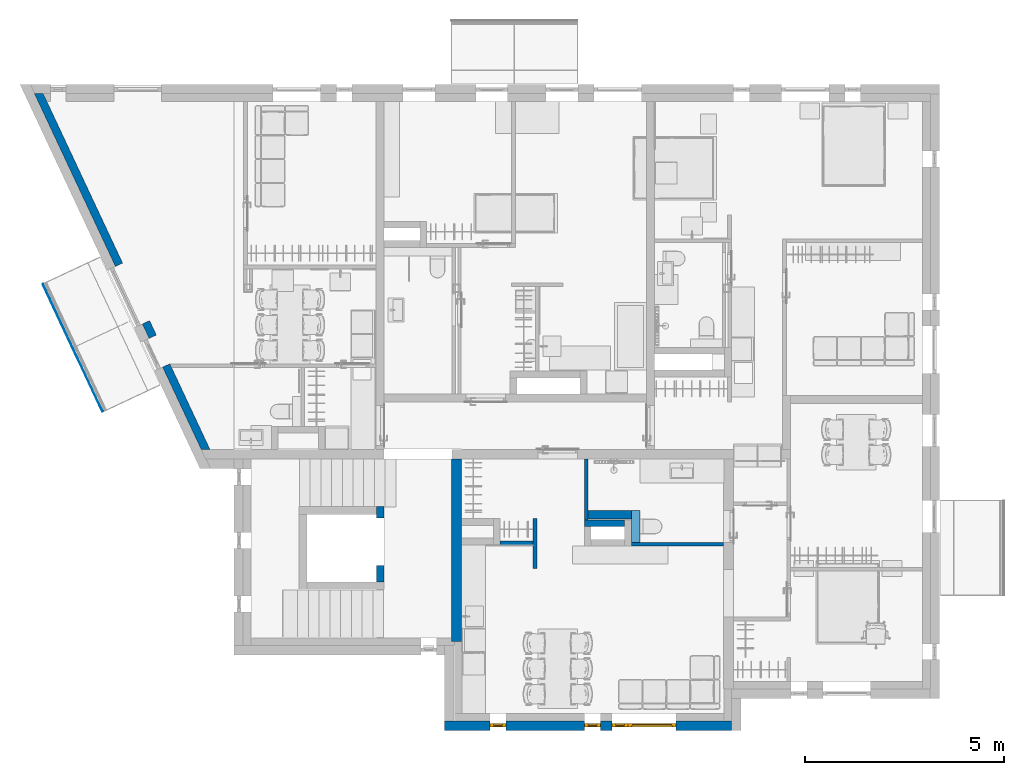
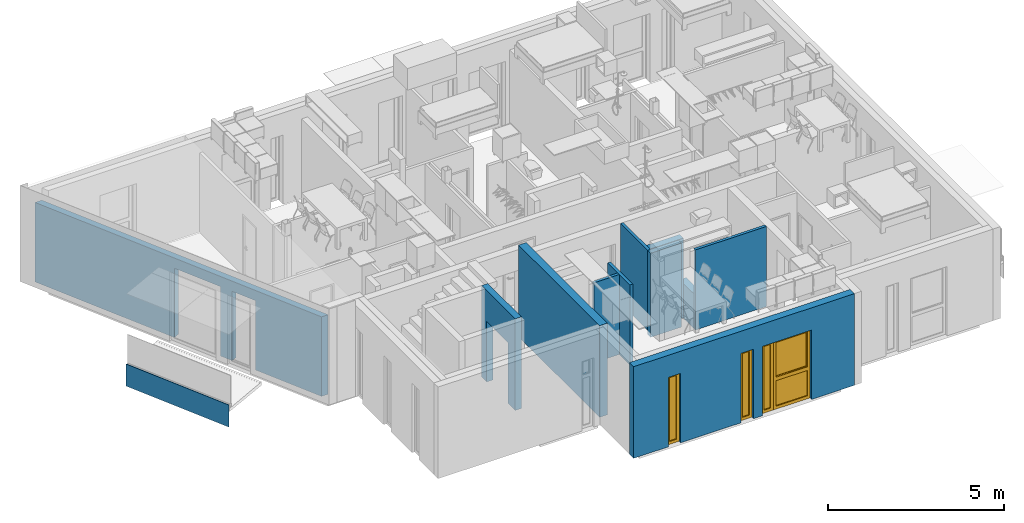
# One storey, part 4 of 68: 12 walls, 4 windows, 7 openings.
"""IFC2X3 building model written with IfcOpenShell, lengths in millimetres."""

import ifcopenshell
import ifcopenshell.guid

model = None  # the IFC model being written
_history = None  # IfcOwnerHistory: only IFC2X3 demands one
_inside = {}  # id of a spatial element -> (the spatial element, [elements in it])
_under = {}  # id of a project, library or spatial element -> (it, [spatial elements below it])
_declared = {}  # id of a project -> (the project, [libraries it declares])
_typed = {}  # id of a type object -> (the type object, [elements of that type])
_made_of = {}  # id of a material, layer set ... -> (it, [elements and type objects made of it])


def new_model(schema):
    """Start an empty IFC model of exactly this schema.

    Asked for "IFC4X3", IfcOpenShell would pick the latest addendum, in which some entities
    have other attributes; the version numbers below select the first issue.
    IFC2X3 requires an IfcOwnerHistory on every rooted entity: one is made here for all.
    """
    global model, _history
    if schema == "IFC4X3":
        model = ifcopenshell.file(schema_version=(4, 3, 0, 0))
    else:
        model = ifcopenshell.file(schema=schema)
    _inside.clear()
    _under.clear()
    _declared.clear()
    _typed.clear()
    _made_of.clear()
    _history = None
    if model.schema == "IFC2X3":
        org = make("IfcOrganization", Name="unknown")
        user = make(
            "IfcPersonAndOrganization",
            ThePerson=make("IfcPerson", FamilyName="unknown"),
            TheOrganization=org,
        )
        app = make(
            "IfcApplication",
            ApplicationDeveloper=org,
            Version="unknown",
            ApplicationFullName="unknown",
            ApplicationIdentifier="unknown",
        )
        _history = make(
            "IfcOwnerHistory",
            OwningUser=user,
            OwningApplication=app,
            ChangeAction="ADDED",
            CreationDate=0,
        )
    return model


def make(cls, **values):
    """One entity of the class cls with the attributes given. An attribute that is None is left unset."""
    return model.create_entity(
        cls, **{name: value for name, value in values.items() if value is not None}
    )


def entity(cls, *values):
    """Any entity or typed value of the class cls, its attributes in the order of the schema. None: left unset."""
    e = model.create_entity(cls)
    for i, value in enumerate(values):
        if value is not None:
            e[i] = value
    return e


def rooted(cls, **values):
    """An entity with a GlobalId (a new one), such as an element, a storey or a relation."""
    return make(cls, GlobalId=ifcopenshell.guid.new(), OwnerHistory=_history, **values)


def si_unit(unit_type, name, prefix=None):
    """IfcSIUnit, for example si_unit("LENGTHUNIT", "METRE", prefix="MILLI")."""
    return make("IfcSIUnit", UnitType=unit_type, Prefix=prefix, Name=name)


def converted_unit(unit_type, name, factor, base, dimensions=None, offset=None):
    """IfcConversionBasedUnit, such as the inch: factor (a typed value) times the base unit."""
    return make(
        "IfcConversionBasedUnit"
        if offset is None
        else "IfcConversionBasedUnitWithOffset",
        ConversionOffset=offset,
        Dimensions=None
        if dimensions is None
        else entity("IfcDimensionalExponents", *dimensions),
        UnitType=unit_type,
        Name=name,
        ConversionFactor=make(
            "IfcMeasureWithUnit", ValueComponent=factor, UnitComponent=base
        ),
    )


def assignment(units):
    """IfcUnitAssignment: the units of a project."""
    return None if units is None else make("IfcUnitAssignment", Units=units)


def point(xyz):
    """IfcCartesianPoint."""
    return None if xyz is None else make("IfcCartesianPoint", Coordinates=xyz)


def direction(xyz):
    """IfcDirection."""
    return None if xyz is None else make("IfcDirection", DirectionRatios=xyz)


def frame(location, z_axis=None, x_axis=None):
    """IfcAxis2Placement3D, a coordinate frame: its origin and axes. An axis left out is left unset."""
    return make(
        "IfcAxis2Placement3D",
        Location=point(location),
        Axis=direction(z_axis),
        RefDirection=direction(x_axis),
    )


def frame_2d(location, x_axis=None):
    """IfcAxis2Placement2D, a coordinate frame in the plane: its origin and x axis."""
    return make(
        "IfcAxis2Placement2D", Location=point(location), RefDirection=direction(x_axis)
    )


def origin():
    """The frame at (0, 0, 0) with its axes left unset."""
    return frame((0.0, 0.0, 0.0))


def origin_2d_with_axis():
    """The frame at (0, 0) in the plane with the x axis (1, 0) written out."""
    return frame_2d((0.0, 0.0), x_axis=(1.0, 0.0))


def place(relative_to, where):
    """IfcLocalPlacement: puts the frame where relative to a parent placement (None: the world)."""
    return make(
        "IfcLocalPlacement", PlacementRelTo=relative_to, RelativePlacement=where
    )


def context(
    kind, dimensions, precision=None, world=None, true_north=None, identifier=None
):
    """IfcGeometricRepresentationContext, for example the 3D "Model" context."""
    return make(
        "IfcGeometricRepresentationContext",
        ContextIdentifier=identifier,
        ContextType=kind,
        CoordinateSpaceDimension=dimensions,
        Precision=precision,
        WorldCoordinateSystem=world,
        TrueNorth=true_north,
    )


def subcontext(parent, identifier, kind, view, scale=None):
    """IfcGeometricRepresentationSubContext, for example "Body" below "Model"."""
    return make(
        "IfcGeometricRepresentationSubContext",
        ContextIdentifier=identifier,
        ContextType=kind,
        ParentContext=parent,
        TargetScale=scale,
        TargetView=view,
    )


def project(units=None, contexts=None):
    """IfcProject with its units and contexts."""
    return rooted(
        "IfcProject",
        Name="project",
        RepresentationContexts=contexts,
        UnitsInContext=assignment(units),
    )


def spatial(cls, under=None, at=None, **own):
    """A site, building, storey or space (cls), placed at a placement, below another one or the project."""
    s = rooted(cls, ObjectPlacement=at, **own)
    if under is not None:
        _under.setdefault(under.id(), (under, []))[1].append(s)
    return s


def polyline(points):
    """IfcPolyline through the points."""
    return make("IfcPolyline", Points=[point(p) for p in points])


def profile(cls, at=None, kind="AREA", **sizes):
    """A parametric profile (cls). Its sizes go by their IFC names, for example OverallWidth=200.0."""
    return make(cls, ProfileType=kind, Position=at, **sizes)


def rectangle(**sizes):
    """IfcRectangleProfileDef."""
    return profile("IfcRectangleProfileDef", **sizes)


def outline(outer, holes=None, kind="AREA"):
    """IfcArbitraryClosedProfileDef: a profile drawn as a closed curve; with holes, ...WithVoids."""
    if holes is None:
        return make("IfcArbitraryClosedProfileDef", ProfileType=kind, OuterCurve=outer)
    return make(
        "IfcArbitraryProfileDefWithVoids",
        ProfileType=kind,
        OuterCurve=outer,
        InnerCurves=holes,
    )


def extrude(swept, where, along, depth):
    """IfcExtrudedAreaSolid: the profile swept, set in the frame where, extruded along a direction by depth."""
    return make(
        "IfcExtrudedAreaSolid",
        SweptArea=swept,
        Position=where,
        ExtrudedDirection=direction(along),
        Depth=depth,
    )


def faces_of(points, faces, orient=None, outer=None):
    """IfcFace entities. A face is a list of loops; a loop is a list of indices into points, from 0.

    orient and outer hold one flag for each loop. By default every Orientation is true, the
    first loop of a face is its IfcFaceOuterBound and the others are IfcFaceBound.
    """
    made = []
    for i, loops in enumerate(faces):
        bounds = []
        for j, loop in enumerate(loops):
            is_outer = j == 0 if outer is None else outer[i][j]
            bounds.append(
                make(
                    "IfcFaceOuterBound" if is_outer else "IfcFaceBound",
                    Bound=make("IfcPolyLoop", Polygon=[points[k] for k in loop]),
                    Orientation=True if orient is None else orient[i][j],
                )
            )
        made.append(make("IfcFace", Bounds=bounds))
    return made


def faceted_brep(points, faces, orient=None, outer=None, voids=None):
    """IfcFacetedBrep: a solid bounded by flat faces; with voids (closed shells), ...WithVoids."""
    shared = [point(p) for p in points]
    hull = make("IfcClosedShell", CfsFaces=faces_of(shared, faces, orient, outer))
    if voids is None:
        return make("IfcFacetedBrep", Outer=hull)
    return make(
        "IfcFacetedBrepWithVoids",
        Outer=hull,
        Voids=[
            make(cls, CfsFaces=faces_of(shared, fs, o, b)) for cls, fs, o, b in voids
        ],
    )


def shape(context_of_items, identifier, shape_type, items):
    """IfcShapeRepresentation: the items that make up one representation, for example the "Body"."""
    return make(
        "IfcShapeRepresentation",
        ContextOfItems=context_of_items,
        RepresentationIdentifier=identifier,
        RepresentationType=shape_type,
        Items=items,
    )


def source(mapping_origin, context_of_items, identifier, shape_type, items):
    """IfcRepresentationMap: a shape defined once, which mapped items show again and again."""
    return make(
        "IfcRepresentationMap",
        MappingOrigin=mapping_origin,
        MappedRepresentation=shape(context_of_items, identifier, shape_type, items),
    )


def transform(
    local_origin,
    x_axis=None,
    y_axis=None,
    z_axis=None,
    scale=None,
    scale2=None,
    scale3=None,
    uniform=True,
):
    """IfcCartesianTransformationOperator3D, or its non-uniform kind. x_axis, y_axis, z_axis: its Axis1, 2, 3."""
    if uniform:
        return make(
            "IfcCartesianTransformationOperator3D",
            Axis1=direction(x_axis),
            Axis2=direction(y_axis),
            LocalOrigin=point(local_origin),
            Scale=scale,
            Axis3=direction(z_axis),
        )
    return make(
        "IfcCartesianTransformationOperator3DnonUniform",
        Axis1=direction(x_axis),
        Axis2=direction(y_axis),
        LocalOrigin=point(local_origin),
        Scale=scale,
        Axis3=direction(z_axis),
        Scale2=scale2,
        Scale3=scale3,
    )


def mapped(mapping_source, mapping_target):
    """IfcMappedItem: shows the shape of a source again, moved by a transform."""
    return make(
        "IfcMappedItem", MappingSource=mapping_source, MappingTarget=mapping_target
    )


def material(Name=None, Category=None):
    """IfcMaterial."""
    return make("IfcMaterial", Name=Name, Category=Category)


def material_list(materials):
    """IfcMaterialList."""
    return make("IfcMaterialList", Materials=materials)


def layer(
    of_material, thickness, ventilated=None, Name=None, Category=None, Priority=None
):
    """IfcMaterialLayer: one layer of a wall or slab, of a material (None: an air gap)."""
    return make(
        "IfcMaterialLayer",
        Material=of_material,
        LayerThickness=thickness,
        IsVentilated=ventilated,
        Name=Name,
        Category=Category,
        Priority=Priority,
    )


def layer_set(layers, Name=None):
    """IfcMaterialLayerSet."""
    return make("IfcMaterialLayerSet", MaterialLayers=layers, LayerSetName=Name)


def layer_usage(for_layer_set, set_direction, sense, offset, extent=None):
    """IfcMaterialLayerSetUsage: how a layer set lies in its element."""
    return make(
        "IfcMaterialLayerSetUsage",
        ForLayerSet=for_layer_set,
        LayerSetDirection=set_direction,
        DirectionSense=sense,
        OffsetFromReferenceLine=offset,
        ReferenceExtent=extent,
    )


def made_of(thing, what):
    """Note that an element or type object is made of a material, layer set ...; save() writes the relation."""
    if what is not None:
        _made_of.setdefault(what.id(), (what, []))[1].append(thing)
    return thing


def type_object(cls, material=None, **own):
    """A type object (cls), such as IfcWallType, which elements share."""
    return made_of(rooted(cls, **own), material)


def type_shapes(of_type, sources):
    """Give a type object the sources (RepresentationMaps) that its elements show as mapped items."""
    of_type.RepresentationMaps = sources


def element(
    cls,
    number,
    at=None,
    inside=None,
    cuts=None,
    type_object=None,
    material=None,
    context=None,
    identifier="Body",
    shape_type=None,
    held_by="IfcProductDefinitionShape",
    body=None,
    shapes=None,
    **own,
):
    """One element of the class cls, such as IfcWall. Its Tag is "e" and its number.

    at: its placement. inside: the storey or other place that contains it. cuts: it is an
    opening in that element (IfcRelVoidsElement). A single representation is given by context,
    identifier, shape_type and body (its items); several are given by shapes. held_by: the class
    of the entity that holds the representations. save() writes the other relations.
    """
    e = rooted(cls, Tag="e%d" % number, ObjectPlacement=at, **own)
    if body is not None:
        shapes = [shape(context, identifier, shape_type, body)]
    if shapes is not None:
        e.Representation = make(held_by, Representations=shapes)
    if inside is not None:
        _inside.setdefault(inside.id(), (inside, []))[1].append(e)
    if cuts is not None:
        rooted(
            "IfcRelVoidsElement", RelatingBuildingElement=cuts, RelatedOpeningElement=e
        )
    if type_object is not None:
        _typed.setdefault(type_object.id(), (type_object, []))[1].append(e)
    return made_of(e, material)


def fill(opening, filler):
    """IfcRelFillsElement: the door or window that sits in an opening."""
    return rooted(
        "IfcRelFillsElement",
        RelatingOpeningElement=opening,
        RelatedBuildingElement=filler,
    )


def aggregate(whole, parts):
    """IfcRelAggregates: a whole, such as a stair, and the parts it consists of."""
    return rooted("IfcRelAggregates", RelatingObject=whole, RelatedObjects=parts)


def save(model, path):
    """Write the relations noted so far, then the file.

    IfcRelAggregates (storeys below a building ...), IfcRelContainedInSpatialStructure (elements
    in a storey), IfcRelDefinesByType, IfcRelAssociatesMaterial and IfcRelDeclares: one each for
    every whole, place, type object, material and project.
    """
    for whole, parts in _under.values():
        aggregate(whole, parts)
    for where, things in _inside.values():
        rooted(
            "IfcRelContainedInSpatialStructure",
            RelatedElements=things,
            RelatingStructure=where,
        )
    for kind, things in _typed.values():
        rooted("IfcRelDefinesByType", RelatedObjects=things, RelatingType=kind)
    for what, things in _made_of.values():
        rooted("IfcRelAssociatesMaterial", RelatedObjects=things, RelatingMaterial=what)
    for by, libraries in _declared.values():
        rooted("IfcRelDeclares", RelatingContext=by, RelatedDefinitions=libraries)
    model.write(path)


model = new_model("IFC2X3")

# Units and contexts
model_context = context("Model", 3, precision=0.01, world=origin(), true_north=direction((6.123233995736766e-17, 1.0)))
plan_context = context("Plan", 3, precision=0.01, world=origin(), true_north=direction((6.123233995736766e-17, 1.0)))
body_context = subcontext(model_context, "Body", "Model", "MODEL_VIEW")
ifc_project = project(units=[si_unit("LENGTHUNIT", "METRE", prefix="MILLI"), converted_unit("PLANEANGLEUNIT", "DEGREE", entity("IfcPlaneAngleMeasure", 0.017453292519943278), si_unit("PLANEANGLEUNIT", "RADIAN"), dimensions=[0, 0, 0, 0, 0, 0, 0]), si_unit("AREAUNIT", "SQUARE_METRE")], contexts=[model_context, plan_context])

# Site, building, storey
site_placement = place(None, origin())
site = spatial("IfcSite", under=ifc_project, at=site_placement, Name="Default", CompositionType="ELEMENT")
building_placement = place(site_placement, origin())
building = spatial("IfcBuilding", under=site, at=building_placement, CompositionType="ELEMENT")
storey_placement = place(building_placement, frame((0.0, 0.0, 6295.0)))
storey = spatial("IfcBuildingStorey", under=building, at=storey_placement, Name="3K", CompositionType="ELEMENT", Elevation=6294.999999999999)

# Wall, opening
ifc_material_1 = material(Name="_K. Väisviimistlus. Krohv. Valge")
ifc_layer_1 = layer(ifc_material_1, 5.0)
ifc_material_2 = material(Name="_K. Müüritis. Väikeplokk. Betoon-õõnesplokk")
ifc_layer_2 = layer(ifc_material_2, 190.00000000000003)
ifc_layer_3 = layer(ifc_material_1, 5.0)
ifc_layer_set_1 = layer_set([ifc_layer_1, ifc_layer_2, ifc_layer_3], Name="Basic Wall:SS-01. 190")
ifc_layer_usage_1 = layer_usage(ifc_layer_set_1, "AXIS2", "NEGATIVE", 100.00000000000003)
wall_type_1 = type_object("IfcWallType", Name="Basic Wall:SS-01. 190", PredefinedType="STANDARD", material=ifc_layer_set_1)
wall_1_placement = place(storey_placement, frame((3249.9935349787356, 5199.998433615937, 0.0), z_axis=(0.0, 0.0, 1.0), x_axis=(0.0, -1.0, 0.0)))
wall_1 = element("IfcWallStandardCase", 1, at=wall_1_placement, inside=storey, type_object=wall_type_1, material=ifc_layer_usage_1, Name="Basic Wall:SS-01. 190", ObjectType="Basic Wall:SS-01. 190", context=body_context, shape_type="SweptSolid", body=[
    extrude(rectangle(XDim=1900.0045776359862, YDim=200.0, at=frame_2d((950.0022888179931, 0.0), x_axis=(1.0, 0.0))), origin(), (0.0, 0.0, 1.0), 3169.999999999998),
])
opening_1_placement = place(wall_1_placement, frame((5199.998433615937, -3249.9935349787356, 0.0)))
element("IfcOpeningElement", 2, at=opening_1_placement, cuts=wall_1, Name="Basic Wall:SS-01. 190", ObjectType="Opening", context=body_context, shape_type="SweptSolid", body=[
    extrude(rectangle(XDim=2100.000000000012, YDim=1200.0, at=origin_2d_with_axis()), frame((-4320.0, 1825.9935349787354, 1050.0), z_axis=(0.0, 1.0, 0.0), x_axis=(0.0, 0.0, 1.0)), (0.0, 0.0, 1.0), 3048.0),
])

# Wall, openings
ifc_layer_usage_2 = layer_usage(ifc_layer_set_1, "AXIS2", "NEGATIVE", 100.00000000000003)
wall_2_placement = place(storey_placement, frame((-1128.7096223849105, 6602.556571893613, 0.0), z_axis=(0.0, 0.0, 1.0), x_axis=(-0.42443387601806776, 0.905458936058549, 0.0)))
wall_2 = element("IfcWallStandardCase", 3, at=wall_2_placement, inside=storey, type_object=wall_type_1, material=ifc_layer_usage_2, Name="Basic Wall:SS-01. 190", ObjectType="Basic Wall:SS-01. 190", context=body_context, shape_type="SweptSolid", body=[
    extrude(outline(polyline([(0.0, -100.0), (2276.1938266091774, -100.0), (2377.7997596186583, -100.0), (9890.012328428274, -100.0), (9979.074828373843, 90.0), (9983.762328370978, 100.0), (93.74999994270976, 100.0), (0.0, -100.0)])), origin(), (0.0, 0.0, 1.0), 2749.9998016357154),
])
opening_2_placement = place(wall_2_placement, frame((-6457.40644878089, 1780.3484636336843, 0.0)))
element("IfcOpeningElement", 4, at=opening_2_placement, cuts=wall_2, Name="Basic Wall:SS-01. 190", ObjectType="Opening", context=body_context, shape_type="Brep", body=[
    faceted_brep([(9634.46231131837, -1430.3484636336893, 2400.0), (9634.46231131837, -2124.3484636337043, 2400.0), (9634.46231131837, -2124.3484636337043, 0.0), (9634.46231131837, -1540.3484636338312, 0.0), (9634.46231131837, -1530.3484636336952, 0.0), (9634.46231131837, -1430.3484636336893, 0.0), (8834.46231131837, -1430.3484636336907, 2400.0), (8834.46231131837, -2124.3484636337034, 2400.0), (8834.46231131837, -1430.3484636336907, 0.0), (8834.46231131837, -1530.3484636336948, 0.0), (8834.46231131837, -1540.3484636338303, 0.0), (8834.46231131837, -2124.3484636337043, 0.0)], [[[0, 1, 2, 3, 4, 5]], [[6, 7, 1, 0]], [[8, 9, 10, 11, 7, 6]], [[5, 4, 3, 2, 11, 10, 9, 8]], [[6, 0, 5, 8]], [[7, 11, 2, 1]]]),
])
opening_3_placement = place(wall_2_placement, frame((-6457.40644878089, 1780.3484636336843, 0.0)))
element("IfcOpeningElement", 5, at=opening_3_placement, cuts=wall_2, Name="Basic Wall:SS-01. 190", ObjectType="Opening", context=body_context, shape_type="Brep", body=[
    faceted_brep([(11634.462311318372, -1430.3484636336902, 2400.0), (11634.46231131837, -2124.348463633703, 2400.0), (11634.46231131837, -2124.348463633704, 0.0), (11634.462311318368, -1540.3484636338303, 0.0), (11634.462311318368, -1530.3484636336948, 0.0), (11634.462311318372, -1430.3484636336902, 0.0), (10034.46231131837, -1430.3484636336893, 2400.0), (10034.46231131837, -2124.3484636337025, 2400.0), (10034.46231131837, -1430.3484636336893, 0.0), (10034.46231131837, -1530.348463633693, 0.0), (10034.46231131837, -1540.348463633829, 0.0), (10034.46231131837, -2124.3484636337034, 0.0)], [[[0, 1, 2, 3, 4, 5]], [[6, 7, 1, 0]], [[8, 9, 10, 11, 7, 6]], [[5, 4, 3, 2, 11, 10, 9, 8]], [[6, 0, 5, 8]], [[7, 11, 2, 1]]]),
])

# Wall
ifc_layer_4 = layer(ifc_material_1, 5.0)
ifc_layer_5 = layer(ifc_material_2, 240.0)
ifc_layer_6 = layer(ifc_material_1, 5.0)
ifc_layer_set_2 = layer_set([ifc_layer_4, ifc_layer_5, ifc_layer_6], Name="Basic Wall:SS-01.240")
ifc_layer_usage_3 = layer_usage(ifc_layer_set_2, "AXIS2", "NEGATIVE", 125.00000000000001)
wall_type_2 = type_object("IfcWallType", Name="Basic Wall:SS-01.240", PredefinedType="STANDARD", material=ifc_layer_set_2)
wall_3_placement = place(storey_placement, frame((5174.995060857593, 1805.0, 0.0), z_axis=(0.0, 0.0, 1.0), x_axis=(0.0, 1.0, 0.0)))
element("IfcWallStandardCase", 6, at=wall_3_placement, inside=storey, type_object=wall_type_2, material=ifc_layer_usage_3, Name="Basic Wall:SS-01.240", ObjectType="Basic Wall:SS-01.240", context=body_context, shape_type="SweptSolid", body=[
    extrude(rectangle(XDim=4599.999959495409, YDim=249.9999999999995, at=frame_2d((2299.9999797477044, 1.4210854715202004e-13), x_axis=(-1.0, 0.0))), origin(), (0.0, 0.0, 1.0), 3169.999999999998),
])

# Wall, openings, windows
ifc_layer_7 = layer(ifc_material_1, 10.0)
ifc_material_3 = material(Name="_K. Soojustus. EPS Silver")
ifc_layer_8 = layer(ifc_material_3, 230.0)
ifc_layer_set_3 = layer_set([ifc_layer_7, ifc_layer_8], Name="Basic Wall:VS-01")
ifc_layer_usage_4 = layer_usage(ifc_layer_set_3, "AXIS2", "NEGATIVE", 120.0)
wall_type_3 = type_object("IfcWallType", Name="Basic Wall:VS-01", PredefinedType="STANDARD", material=ifc_layer_set_3)
wall_4_placement = place(storey_placement, frame((12090.0, -310.0, 0.0), z_axis=(0.0, 0.0, 1.0), x_axis=(-1.0, 0.0, 0.0)))
wall_4 = element("IfcWallStandardCase", 7, at=wall_4_placement, inside=storey, type_object=wall_type_3, material=ifc_layer_usage_4, Name="Basic Wall:VS-01", ObjectType="Basic Wall:VS-01", context=body_context, shape_type="SweptSolid", body=[
    extrude(rectangle(XDim=7220.000000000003, YDim=239.99999999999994, at=frame_2d((3610.000000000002, 0.0), x_axis=(1.0, 0.0))), origin(), (0.0, 0.0, 1.0), 3169.999999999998),
])
opening_4_placement = place(wall_4_placement, frame((12090.0, -310.0, 0.0), z_axis=(0.0, 0.0, 1.0), x_axis=(-1.0, 0.0, 0.0)))
opening_4 = element("IfcOpeningElement", 8, at=opening_4_placement, cuts=wall_4, Name="Basic Wall:VS-01", ObjectType="Opening", context=body_context, shape_type="Brep", body=[
    faceted_brep([(6010.0, -450.0, 2400.0), (6010.0, 244.0, 2400.0), (6010.0, 244.0, 0.0), (6010.0, -340.0, 0.0), (6010.0, -350.0, 0.0), (6010.0, -450.0, 0.0), (6410.0, -450.0, 2400.0), (6410.0, 244.0, 2400.0), (6410.0, -450.0, 0.0), (6410.0, -350.0, 0.0), (6410.0, -340.0, 0.0), (6410.0, 244.0, 0.0)], [[[0, 1, 2, 3, 4, 5]], [[6, 7, 1, 0]], [[8, 9, 10, 11, 7, 6]], [[5, 4, 3, 2, 11, 10, 9, 8]], [[6, 0, 5, 8]], [[7, 11, 2, 1]]]),
])
opening_5_placement = place(wall_4_placement, frame((12090.0, -310.0, 0.0), z_axis=(0.0, 0.0, 1.0), x_axis=(-1.0, 0.0, 0.0)))
opening_5 = element("IfcOpeningElement", 9, at=opening_5_placement, cuts=wall_4, Name="Basic Wall:VS-01", ObjectType="Opening", context=body_context, shape_type="Brep", body=[
    faceted_brep([(8390.0, -450.0, 2400.0), (8390.0, 244.0, 2400.0), (8390.0, 244.0, 0.0), (8390.0, -340.0, 0.0), (8390.0, -350.0, 0.0), (8390.0, -450.0, 0.0), (8790.0, -450.0, 2400.0), (8790.0, 244.0, 2400.0), (8790.0, -450.0, 0.0), (8790.0, -350.0, 0.0), (8790.0, -340.0, 0.0), (8790.0, 244.0, 0.0)], [[[0, 1, 2, 3, 4, 5]], [[6, 7, 1, 0]], [[8, 9, 10, 11, 7, 6]], [[5, 4, 3, 2, 11, 10, 9, 8]], [[6, 0, 5, 8]], [[7, 11, 2, 1]]]),
])
opening_6_placement = place(wall_4_placement, frame((12090.0, -310.0, 0.0), z_axis=(0.0, 0.0, 1.0), x_axis=(-1.0, 0.0, 0.0)))
opening_6 = element("IfcOpeningElement", 10, at=opening_6_placement, cuts=wall_4, Name="Basic Wall:VS-01", ObjectType="Opening", context=body_context, shape_type="Brep", body=[
    faceted_brep([(9490.0, -450.0, 2400.0), (9490.0, 244.0, 2400.0), (9490.0, 244.0, 0.0), (9490.0, -340.0, 0.0), (9490.0, -350.0, 0.0), (9490.0, -450.0, 0.0), (10690.0, -450.0, 2400.0), (10690.0, 244.0, 2400.0), (10690.0, -450.0, 0.0), (10690.0, -350.0, 0.0), (10690.0, -340.0, 0.0), (10690.0, 244.0, 0.0)], [[[0, 1, 2, 3, 4, 5]], [[6, 7, 1, 0]], [[8, 9, 10, 11, 7, 6]], [[5, 4, 3, 2, 11, 10, 9, 8]], [[6, 0, 5, 8]], [[7, 11, 2, 1]]]),
])
opening_7_placement = place(wall_4_placement, frame((12090.0, -310.0, 0.0), z_axis=(0.0, 0.0, 1.0), x_axis=(-1.0, 0.0, 0.0)))
opening_7 = element("IfcOpeningElement", 11, at=opening_7_placement, cuts=wall_4, Name="Basic Wall:VS-01", ObjectType="Opening", context=body_context, shape_type="Brep", body=[
    faceted_brep([(9090.0, -450.0, 2400.0), (9090.0, 244.0, 2400.0), (9090.0, 244.0, 0.0), (9090.0, -340.0, 0.0), (9090.0, -350.0, 0.0), (9090.0, -450.0, 0.0), (9490.0, -450.0, 2400.0), (9490.0, 244.0, 2400.0), (9490.0, -450.0, 0.0), (9490.0, -350.0, 0.0), (9490.0, -340.0, 0.0), (9490.0, 244.0, 0.0)], [[[0, 1, 2, 3, 4, 5]], [[6, 7, 1, 0]], [[8, 9, 10, 11, 7, 6]], [[5, 4, 3, 2, 11, 10, 9, 8]], [[6, 0, 5, 8]], [[7, 11, 2, 1]]]),
])
ifc_material_4 = material(Name="_K. Klaas. Pakett")
ifc_material_5 = material(Name="_K. Avatäited. Raam. PVC. RAL9005")
ifc_material_6 = material(Name="_K. Avatäited. Raam. PVC. Valge")
ifc_material_list_1 = material_list([ifc_material_4, ifc_material_5, ifc_material_6])
window_style_1 = type_object("IfcWindowStyle", Name="HR_Window_Generic_Rectangle_1x2:A-13.1200x2400.P", ConstructionType="NOTDEFINED", OperationType="NOTDEFINED", ParameterTakesPrecedence=False, Sizeable=False, material=ifc_material_list_1)
shared_shape_1 = source(origin(), body_context, "Body", "Brep", [
    faceted_brep([(78.0, -154.0, 2322.0), (1122.0, -154.0, 2322.0), (1122.0, -154.0, 1101.0), (78.0, -154.0, 1101.0), (1122.0, -179.0, 2322.0), (1122.0, -179.0, 1101.0), (78.0, -179.0, 1101.0), (78.0, -179.0, 2322.0)], [[[0, 1, 2, 3]], [[2, 1, 4, 5]], [[3, 2, 5, 6]], [[0, 3, 6, 7]], [[7, 6, 5, 4]], [[1, 0, 7, 4]]]),
    faceted_brep([(1122.0, -154.0, 2322.0), (1122.0, -154.0, 1101.0), (1122.0, -179.0, 1101.0), (1122.0, -179.0, 2322.0), (1142.0, -134.0, 2342.0), (58.0, -134.0, 2342.0), (58.0, -194.0, 2342.0), (1142.0, -194.0, 2342.0), (98.0, -154.0, 2302.0), (98.0, -134.0, 2302.0), (1102.0, -134.0, 2302.0), (1102.0, -154.0, 2302.0), (98.0, -179.0, 2302.0), (98.0, -194.0, 2302.0), (98.0, -194.0, 1121.0), (98.0, -179.0, 1121.0), (1142.0, -134.0, 1081.0), (1142.0, -194.0, 1081.0), (58.0, -194.0, 1081.0), (58.0, -134.0, 1081.0), (1102.0, -194.0, 2302.0), (1102.0, -194.0, 1121.0), (98.0, -134.0, 1121.0), (1102.0, -134.0, 1121.0), (98.0, -154.0, 1121.0), (1102.0, -154.0, 1121.0), (78.0, -154.0, 1101.0), (78.0, -179.0, 1101.0), (78.0, -154.0, 2322.0), (78.0, -179.0, 2322.0), (1102.0, -179.0, 2302.0), (1102.0, -179.0, 1121.0)], [[[0, 1, 2, 3]], [[4, 5, 6, 7]], [[8, 9, 10, 11]], [[12, 13, 14, 15]], [[16, 17, 18, 19]], [[4, 7, 17, 16]], [[13, 20, 21, 14], [7, 6, 18, 17]], [[6, 5, 19, 18]], [[5, 4, 16, 19], [10, 9, 22, 23]], [[9, 8, 24, 22]], [[25, 23, 22, 24]], [[11, 10, 23, 25]], [[1, 26, 27, 2]], [[26, 28, 29, 27]], [[28, 26, 1, 0], [8, 11, 25, 24]], [[28, 0, 3, 29]], [[20, 30, 31, 21]], [[21, 31, 15, 14]], [[29, 3, 2, 27], [30, 12, 15, 31]], [[13, 12, 30, 20]]], outer=[[True], [True], [True], [True], [True], [True], [False, True], [True], [True, False], [True], [True], [True], [True], [True], [True, False], [True], [True], [True], [True, False], [True]]),
    faceted_brep([(88.0, -194.0, 989.0), (1112.0, -194.0, 989.0), (1112.0, -194.0, 108.0), (88.0, -194.0, 108.0), (1142.0, -194.0, 1019.0), (58.0, -194.0, 1019.0), (58.0, -194.0, 78.0), (1142.0, -194.0, 78.0), (88.0, -159.0, 989.0), (88.0, -159.0, 108.0), (1112.0, -159.0, 108.0), (1142.0, -159.0, 1019.0), (1142.0, -159.0, 78.0), (58.0, -159.0, 78.0), (58.0, -159.0, 1019.0), (1112.0, -159.0, 989.0)], [[[0, 1, 2, 3], [4, 5, 6, 7]], [[8, 0, 3, 9]], [[9, 3, 2, 10]], [[11, 12, 13, 14], [15, 8, 9, 10]], [[1, 15, 10, 2]], [[6, 5, 14, 13]], [[7, 6, 13, 12]], [[4, 7, 12, 11]], [[15, 1, 0, 8]], [[5, 4, 11, 14]]], outer=[[False, True], [True], [True], [True, False], [True], [True], [True], [True], [True], [True]]),
    faceted_brep([(1142.0, -159.0, 1019.0), (58.0, -159.0, 1019.0), (58.0, -159.0, 78.0), (1142.0, -159.0, 78.0), (58.0, -134.0, 1019.0), (58.0, -134.0, 78.0), (1142.0, -134.0, 78.0), (1142.0, -134.0, 1019.0)], [[[0, 1, 2, 3]], [[2, 1, 4, 5]], [[3, 2, 5, 6]], [[0, 3, 6, 7]], [[7, 6, 5, 4]], [[1, 0, 7, 4]]]),
    faceted_brep([(58.0, -134.0, 2342.0), (58.0, -134.0, 1081.0), (1142.0, -134.0, 1081.0), (1142.0, -134.0, 2342.0), (88.0, -134.0, 2312.0), (1112.0, -134.0, 2312.0), (1112.0, -134.0, 1111.0), (88.0, -134.0, 1111.0), (1142.0, -134.0, 1019.0), (1142.0, -134.0, 78.0), (1142.0, -194.0, 78.0), (1142.0, -194.0, 1019.0), (58.0, -134.0, 78.0), (58.0, -134.0, 1019.0), (58.0, -194.0, 1019.0), (58.0, -194.0, 78.0), (1112.0, -100.0, 108.0), (88.0, -100.0, 108.0), (88.0, -134.0, 108.0), (1112.0, -134.0, 108.0), (88.0, -100.0, 989.0), (88.0, -134.0, 989.0), (1112.0, -100.0, 989.0), (1112.0, -134.0, 989.0), (1200.0, -194.0, 2400.0), (0.0, -194.0, 2400.0), (0.0, -194.0, 30.0), (1200.0, -194.0, 30.0), (58.0, -194.0, 2342.0), (1142.0, -194.0, 2342.0), (1142.0, -194.0, 1081.0), (58.0, -194.0, 1081.0), (0.0, -100.0, 2400.0), (0.0, -100.0, 30.0), (0.0, -110.0, 30.0), (0.0, -110.0, 0.0), (0.0, -184.0, 0.0), (0.0, -184.0, 30.0), (1200.0, -184.0, 30.0), (1200.0, -100.0, 2400.0), (1200.0, -184.0, 0.0), (1200.0, -110.0, 0.0), (1200.0, -110.0, 30.0), (1200.0, -100.0, 30.0), (88.0, -100.0, 2312.0), (88.0, -100.0, 1111.0), (1112.0, -100.0, 1111.0), (1112.0, -100.0, 2312.0)], [[[0, 1, 2, 3], [4, 5, 6, 7]], [[8, 9, 10, 11]], [[12, 13, 14, 15]], [[9, 12, 15, 10]], [[16, 17, 18, 19]], [[17, 20, 21, 18]], [[22, 16, 19, 23]], [[11, 10, 15, 14], [24, 25, 26, 27], [28, 29, 30, 31]], [[25, 32, 33, 34, 35, 36, 37, 26]], [[37, 38, 27, 26]], [[39, 24, 27, 38, 40, 41, 42, 43]], [[17, 16, 22, 20], [32, 39, 43, 33], [44, 45, 46, 47]], [[42, 34, 33, 43]], [[34, 42, 41, 35]], [[35, 41, 40, 36]], [[38, 37, 36, 40]], [[25, 24, 39, 32]], [[44, 47, 5, 4]], [[47, 46, 6, 5]], [[45, 44, 4, 7]], [[0, 3, 29, 28]], [[3, 2, 30, 29]], [[13, 8, 11, 14]], [[1, 0, 28, 31]], [[2, 1, 31, 30]], [[46, 45, 7, 6]], [[20, 22, 23, 21]], [[9, 8, 13, 12], [19, 18, 21, 23]]], outer=[[True, False], [True], [True], [True], [True], [True], [True], [False, True, False], [True], [True], [True], [False, True, False], [True], [True], [True], [True], [True], [True], [True], [True], [True], [True], [True], [True], [True], [True], [True], [True, False]]),
])
type_shapes(window_style_1, [shared_shape_1])
window_1_placement = place(opening_6_placement, frame((10690.0, -450.0, 0.0), z_axis=(0.0, 0.0, 1.0), x_axis=(-1.0, 0.0, 0.0)))
window_1 = element("IfcWindow", 12, at=window_1_placement, inside=storey, type_object=window_style_1, material=ifc_material_list_1, Name="HR_Window_Generic_Rectangle_1x2:A-13.1200x2400.P", ObjectType="HR_Window_Generic_Rectangle_1x2:A-13.1200x2400.P", OverallHeight=2465.0000000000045, OverallWidth=1200.0000000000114, context=body_context, shape_type="MappedRepresentation", body=[
    mapped(shared_shape_1, transform((0.0, 0.0, 0.0), scale=1.0)),
])
fill(opening_6, window_1)
ifc_material_list_2 = material_list([ifc_material_6, ifc_material_4, ifc_material_5])
window_style_2 = type_object("IfcWindowStyle", Name="HR_Window_Generic_Rectangle_1x1:A-01.400x2400.ma", ConstructionType="NOTDEFINED", OperationType="NOTDEFINED", ParameterTakesPrecedence=False, Sizeable=False, material=ifc_material_list_2)
shared_shape_2 = source(origin(), body_context, "Body", "Brep", [
    faceted_brep([(88.0, -194.0, 2312.0), (312.0, -194.0, 2312.0), (312.0, -194.0, 108.0), (88.0, -194.0, 108.0), (342.0, -194.0, 2342.0), (58.0, -194.0, 2342.0), (58.0, -194.0, 78.0), (342.0, -194.0, 78.0), (88.0, -159.0, 2312.0), (88.0, -159.0, 108.0), (312.0, -159.0, 108.0), (342.0, -159.0, 2342.0), (342.0, -159.0, 78.0), (58.0, -159.0, 78.0), (58.0, -159.0, 2342.0), (312.0, -159.0, 2312.0)], [[[0, 1, 2, 3], [4, 5, 6, 7]], [[8, 0, 3, 9]], [[9, 3, 2, 10]], [[11, 12, 13, 14], [15, 8, 9, 10]], [[1, 15, 10, 2]], [[6, 5, 14, 13]], [[7, 6, 13, 12]], [[4, 7, 12, 11]], [[15, 1, 0, 8]], [[5, 4, 11, 14]]], outer=[[False, True], [True], [True], [True, False], [True], [True], [True], [True], [True], [True]]),
    faceted_brep([(342.0, -159.0, 2342.0), (58.0, -159.0, 2342.0), (58.0, -159.0, 78.0), (342.0, -159.0, 78.0), (58.0, -134.0, 2342.0), (58.0, -134.0, 78.0), (342.0, -134.0, 78.0), (342.0, -134.0, 2342.0)], [[[0, 1, 2, 3]], [[2, 1, 4, 5]], [[3, 2, 5, 6]], [[0, 3, 6, 7]], [[7, 6, 5, 4]], [[1, 0, 7, 4]]]),
    faceted_brep([(342.0, -134.0, 78.0), (58.0, -134.0, 78.0), (58.0, -194.0, 78.0), (342.0, -194.0, 78.0), (58.0, -134.0, 2342.0), (58.0, -194.0, 2342.0), (342.0, -134.0, 2342.0), (342.0, -194.0, 2342.0), (88.0, -100.0, 108.0), (88.0, -100.0, 2312.0), (88.0, -134.0, 2312.0), (88.0, -134.0, 108.0), (312.0, -100.0, 108.0), (312.0, -134.0, 108.0), (312.0, -100.0, 2312.0), (312.0, -134.0, 2312.0), (0.0, -100.0, 2400.0), (400.0, -100.0, 2400.0), (400.0, -100.0, 30.0), (0.0, -100.0, 30.0), (400.0, -194.0, 2400.0), (0.0, -194.0, 2400.0), (0.0, -194.0, 30.0), (400.0, -194.0, 30.0), (0.0, -110.0, 30.0), (0.0, -110.0, 0.0), (0.0, -184.0, 0.0), (0.0, -184.0, 30.0), (400.0, -184.0, 30.0), (400.0, -184.0, 0.0), (400.0, -110.0, 0.0), (400.0, -110.0, 30.0)], [[[0, 1, 2, 3]], [[1, 4, 5, 2]], [[6, 0, 3, 7]], [[8, 9, 10, 11]], [[12, 8, 11, 13]], [[14, 12, 13, 15]], [[16, 17, 18, 19], [9, 8, 12, 14]], [[20, 21, 22, 23], [7, 3, 2, 5]], [[21, 16, 19, 24, 25, 26, 27, 22]], [[27, 28, 23, 22]], [[17, 20, 23, 28, 29, 30, 31, 18]], [[31, 24, 19, 18]], [[24, 31, 30, 25]], [[25, 30, 29, 26]], [[28, 27, 26, 29]], [[4, 6, 7, 5]], [[9, 14, 15, 10]], [[21, 20, 17, 16]], [[10, 15, 13, 11], [0, 6, 4, 1]]], outer=[[True], [True], [True], [True], [True], [True], [True, False], [True, False], [True], [True], [True], [True], [True], [True], [True], [True], [True], [True], [False, True]]),
])
type_shapes(window_style_2, [shared_shape_2])
window_2_placement = place(opening_5_placement, frame((8790.0, -450.0, 0.0), z_axis=(0.0, 0.0, 1.0), x_axis=(-1.0, 0.0, 0.0)))
window_2 = element("IfcWindow", 13, at=window_2_placement, inside=storey, type_object=window_style_2, material=ifc_material_list_2, Name="HR_Window_Generic_Rectangle_1x1:A-01.400x2400.ma", ObjectType="HR_Window_Generic_Rectangle_1x1:A-01.400x2400.ma", OverallHeight=2465.0000000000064, OverallWidth=400.0000000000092, context=body_context, shape_type="MappedRepresentation", body=[
    mapped(shared_shape_2, transform((0.0, 0.0, 0.0), scale=1.0)),
])
fill(opening_5, window_2)
window_3_placement = place(opening_4_placement, frame((6410.0, -450.0, 0.0), z_axis=(0.0, 0.0, 1.0), x_axis=(-1.0, 0.0, 0.0)))
window_3 = element("IfcWindow", 14, at=window_3_placement, inside=storey, type_object=window_style_2, material=ifc_material_list_2, Name="HR_Window_Generic_Rectangle_1x1:A-01.400x2400.ma", ObjectType="HR_Window_Generic_Rectangle_1x1:A-01.400x2400.ma", OverallHeight=2465.0000000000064, OverallWidth=400.0000000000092, context=body_context, shape_type="MappedRepresentation", body=[
    mapped(shared_shape_2, transform((0.0, 0.0, 0.0), scale=1.0)),
])
fill(opening_4, window_3)
window_4_placement = place(opening_7_placement, frame((9490.0, -450.0, 0.0), z_axis=(0.0, 0.0, 1.0), x_axis=(-1.0, 0.0, 0.0)))
window_4 = element("IfcWindow", 15, at=window_4_placement, inside=storey, type_object=window_style_2, material=ifc_material_list_2, Name="HR_Window_Generic_Rectangle_1x1:A-01.400x2400.ma", ObjectType="HR_Window_Generic_Rectangle_1x1:A-01.400x2400.ma", OverallHeight=2465.0000000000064, OverallWidth=400.0000000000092, context=body_context, shape_type="MappedRepresentation", body=[
    mapped(shared_shape_2, transform((0.0, 0.0, 0.0), scale=1.0)),
])
fill(opening_7, window_4)

# Walls
ifc_material_7 = material(Name="_K. Ehitusplaat. Kipsplaat. Erikõva")
ifc_layer_9 = layer(ifc_material_7, 13.000000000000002)
ifc_material_8 = material(Name="_K. Soojustus. Mineraalvill")
ifc_layer_10 = layer(ifc_material_8, 66.0)
ifc_layer_11 = layer(ifc_material_7, 13.000000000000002)
ifc_layer_set_4 = layer_set([ifc_layer_9, ifc_layer_10, ifc_layer_11], Name="Basic Wall:SS-401")
ifc_layer_usage_5 = layer_usage(ifc_layer_set_4, "AXIS2", "NEGATIVE", 46.00000000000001)
wall_type_4 = type_object("IfcWallType", Name="Basic Wall:SS-401", PredefinedType="STANDARD", material=ifc_layer_set_4)
wall_5_placement = place(storey_placement, frame((11894.993534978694, 4256.0, -20.0), z_axis=(0.0, 0.0, 1.0), x_axis=(-1.0, 0.0, 0.0)))
element("IfcWallStandardCase", 16, at=wall_5_placement, inside=storey, type_object=wall_type_4, material=ifc_layer_usage_5, Name="Basic Wall:SS-401", ObjectType="Basic Wall:SS-401", context=body_context, shape_type="SweptSolid", body=[
    extrude(rectangle(XDim=2324.9935349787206, YDim=91.99999999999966, at=frame_2d((1162.4967674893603, -1.9895196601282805e-13), x_axis=(-1.0, 0.0))), origin(), (0.0, 0.0, 1.0), 2769.999999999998),
])
ifc_layer_usage_6 = layer_usage(ifc_layer_set_4, "AXIS2", "NEGATIVE", 46.00000000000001)
wall_6_placement = place(storey_placement, frame((8436.0, 4870.0, -20.0), z_axis=(0.0, 0.0, 1.0), x_axis=(0.0, 1.0, 0.0)))
element("IfcWallStandardCase", 17, at=wall_6_placement, inside=storey, type_object=wall_type_4, material=ifc_layer_usage_6, Name="Basic Wall:SS-401", ObjectType="Basic Wall:SS-401", context=body_context, shape_type="SweptSolid", body=[
    extrude(rectangle(XDim=1534.9999594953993, YDim=92.00000000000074, at=frame_2d((767.4999797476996, 1.9895196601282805e-13), x_axis=(-1.0, 0.0))), origin(), (0.0, 0.0, 1.0), 2769.999999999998),
])
ifc_layer_usage_7 = layer_usage(ifc_layer_set_4, "AXIS2", "NEGATIVE", 46.00000000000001)
wall_7_placement = place(storey_placement, frame((7146.0, 3640.0, -20.0), z_axis=(0.0, 0.0, 1.0), x_axis=(0.0, 1.0, 0.0)))
element("IfcWallStandardCase", 18, at=wall_7_placement, inside=storey, type_object=wall_type_4, material=ifc_layer_usage_7, Name="Basic Wall:SS-401", ObjectType="Basic Wall:SS-401", context=body_context, shape_type="SweptSolid", body=[
    extrude(rectangle(XDim=1260.0000000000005, YDim=92.00000000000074, at=frame_2d((630.0000000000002, -2.842170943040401e-14), x_axis=(-1.0, 0.0))), origin(), (0.0, 0.0, 1.0), 2769.999999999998),
])
ifc_layer_usage_8 = layer_usage(ifc_layer_set_4, "AXIS2", "NEGATIVE", 46.00000000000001)
wall_8_placement = place(storey_placement, frame((7100.0, 4286.0, -20.0), z_axis=(0.0, 0.0, 1.0), x_axis=(-1.0, 0.0, 0.0)))
element("IfcWallStandardCase", 19, at=wall_8_placement, inside=storey, type_object=wall_type_4, material=ifc_layer_usage_8, Name="Basic Wall:SS-401", ObjectType="Basic Wall:SS-401", context=body_context, shape_type="SweptSolid", body=[
    extrude(rectangle(XDim=830.0028029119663, YDim=91.99999999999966, at=frame_2d((415.00140145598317, -1.7053025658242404e-13), x_axis=(-1.0, 0.0))), origin(), (0.0, 0.0, 1.0), 2769.999999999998),
])
ifc_layer_12 = layer(ifc_material_1, 10.0)
ifc_material_9 = material(Name="_K. Müüritis. Väikeplokk. Kergkruusplokk")
ifc_layer_13 = layer(ifc_material_9, 150.0)
ifc_layer_14 = layer(ifc_material_1, 10.0)
ifc_layer_set_5 = layer_set([ifc_layer_12, ifc_layer_13, ifc_layer_14], Name="Basic Wall:SS-03. Šahti sein")
ifc_layer_usage_9 = layer_usage(ifc_layer_set_5, "AXIS2", "NEGATIVE", 85.00000000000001)
wall_type_5 = type_object("IfcWallType", Name="Basic Wall:SS-03. Šahti sein", PredefinedType="STANDARD", material=ifc_layer_set_5)
wall_9_placement = place(storey_placement, frame((8390.0, 4785.0, -155.0)))
element("IfcWallStandardCase", 20, at=wall_9_placement, inside=storey, type_object=wall_type_5, material=ifc_layer_usage_9, Name="Basic Wall:SS-03. Šahti sein", ObjectType="Basic Wall:SS-03. Šahti sein", context=body_context, shape_type="SweptSolid", body=[
    extrude(rectangle(XDim=1009.9999999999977, YDim=170.00000000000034, at=frame_2d((504.99999999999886, 0.0), x_axis=(-1.0, 0.0))), origin(), (0.0, 0.0, 1.0), 2905.0000763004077),
])
ifc_material_10 = material(Name="_K. Välisviimistlus. Alumiinium-komposiitplaat")
ifc_layer_15 = layer(ifc_material_10, 4.0)
ifc_material_11 = material(Name="_K. Õhk. Roov. Fassaadikatte alusroov. Horisontaalne. 25 mm")
ifc_layer_16 = layer(ifc_material_11, 16.0)
ifc_layer_set_6 = layer_set([ifc_layer_15, ifc_layer_16], Name="Basic Wall:VS-komposiit")
ifc_layer_usage_10 = layer_usage(ifc_layer_set_6, "AXIS2", "NEGATIVE", 10.000000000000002)
wall_type_6 = type_object("IfcWallType", Name="Basic Wall:VS-komposiit", PredefinedType="STANDARD")
wall_10_placement = place(storey_placement, frame((-3737.7133640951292, 7592.904474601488, -762.4999999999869), z_axis=(0.0, 0.0, 1.0), x_axis=(-0.42443169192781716, 0.9054599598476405, 0.0)))
element("IfcWallStandardCase", 21, at=wall_10_placement, inside=storey, type_object=wall_type_6, material=ifc_layer_usage_10, Name="Basic Wall:VS-komposiit", ObjectType="Basic Wall:VS-komposiit", context=body_context, shape_type="SweptSolid", body=[
    extrude(rectangle(XDim=3545.900100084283, YDim=20.000000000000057, at=frame_2d((1772.9500500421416, -5.3290705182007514e-14), x_axis=(-1.0, 0.0))), origin(), (0.0, 0.0, 1.0), 762.4999999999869),
])
ifc_layer_17 = layer(ifc_material_7, 13.000000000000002)
ifc_material_12 = material(Name="_K. Õhk. Roov. Fassaadikatte alusroov. Vertikaalne. 25 mm")
ifc_layer_18 = layer(ifc_material_12, 200.0)
ifc_layer_set_7 = layer_set([ifc_layer_17, ifc_layer_18], Name="Basic Wall:SS-403")
ifc_layer_usage_11 = layer_usage(ifc_layer_set_7, "AXIS2", "POSITIVE", -106.5)
wall_type_7 = type_object("IfcWallType", Name="Basic Wall:SS-403", PredefinedType="STANDARD", material=ifc_layer_set_7)
wall_11_placement = place(storey_placement, frame((9676.499999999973, 4302.0, -20.0), z_axis=(0.0, 0.0, 1.0), x_axis=(0.0, 1.0, 0.0)))
element("IfcWallStandardCase", 22, at=wall_11_placement, inside=storey, type_object=wall_type_7, material=ifc_layer_usage_11, Name="Basic Wall:SS-403", ObjectType="Basic Wall:SS-403", context=body_context, shape_type="SweptSolid", body=[
    extrude(rectangle(XDim=800.0000000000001, YDim=212.99999999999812, at=frame_2d((400.00000000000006, 6.039613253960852e-13), x_axis=(-1.0, 0.0))), origin(), (0.0, 0.0, 1.0), 1200.0),
])
ifc_layer_usage_12 = layer_usage(ifc_layer_set_7, "AXIS2", "POSITIVE", -106.5)
wall_12_placement = place(storey_placement, frame((9570.0, 4995.499999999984, -20.0), z_axis=(0.0, 0.0, 1.0), x_axis=(-1.0, 0.0, 0.0)))
element("IfcWallStandardCase", 23, at=wall_12_placement, inside=storey, type_object=wall_type_7, material=ifc_layer_usage_12, Name="Basic Wall:SS-403", ObjectType="Basic Wall:SS-403", context=body_context, shape_type="SweptSolid", body=[
    extrude(rectangle(XDim=1087.9999999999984, YDim=212.99999999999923, at=frame_2d((543.9999999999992, 1.2789769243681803e-13), x_axis=(-1.0, 0.0))), origin(), (0.0, 0.0, 1.0), 2769.999999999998),
])

save(model, "model.ifc")
